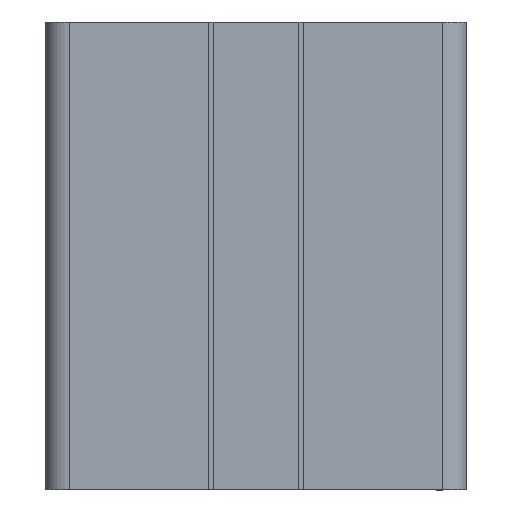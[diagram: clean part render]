
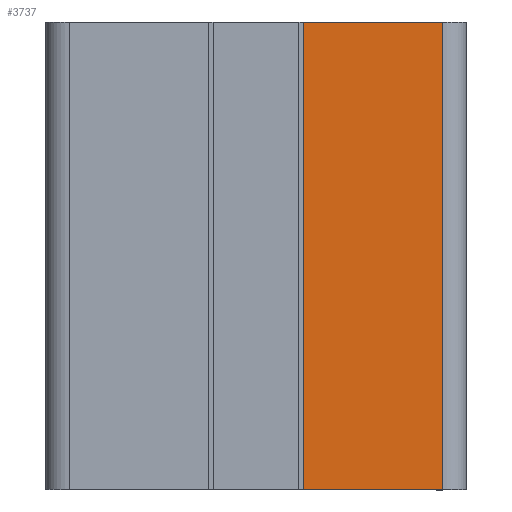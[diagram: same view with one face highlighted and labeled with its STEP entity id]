
A CAD part, top view. The second image highlights one B-rep face of the part: STEP entity #3737.
In plain terms, the highlighted planar face has unit normal (0, 0, 1).
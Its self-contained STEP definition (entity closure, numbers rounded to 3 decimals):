
#228 = DIRECTION ( 'NONE',  ( 0., -1., 0. ) ) ;
#515 = CARTESIAN_POINT ( 'NONE',  ( 514.108, 95.868, 29.568 ) ) ;
#519 = LINE ( 'NONE', #3455, #2419 ) ;
#540 = VERTEX_POINT ( 'NONE', #3131 ) ;
#660 = CARTESIAN_POINT ( 'NONE',  ( 534.108, 95.868, 29.568 ) ) ;
#844 = VECTOR ( 'NONE', #5405, 1000. ) ;
#1151 = VECTOR ( 'NONE', #1756, 1000. ) ;
#1517 = PLANE ( 'NONE',  #4840 ) ;
#1710 = EDGE_CURVE ( 'NONE', #2701, #4109, #4387, .T. ) ;
#1741 = DIRECTION ( 'NONE',  ( 0., 1., 0. ) ) ;
#1744 = FACE_OUTER_BOUND ( 'NONE', #3221, .T. ) ;
#1756 = DIRECTION ( 'NONE',  ( 1., 0., 0. ) ) ;
#1953 = CARTESIAN_POINT ( 'NONE',  ( 519.208, 195.868, 29.568 ) ) ;
#1967 = VECTOR ( 'NONE', #3072, 1000. ) ;
#1981 = EDGE_CURVE ( 'NONE', #2971, #4109, #4524, .T. ) ;
#2079 = CARTESIAN_POINT ( 'NONE',  ( 519.208, 145.868, 29.568 ) ) ;
#2168 = ORIENTED_EDGE ( 'NONE', *, *, #2804, .T. ) ;
#2282 = CARTESIAN_POINT ( 'NONE',  ( 519.208, 95.868, 29.568 ) ) ;
#2419 = VECTOR ( 'NONE', #1741, 1000. ) ;
#2486 = LINE ( 'NONE', #2079, #1151 ) ;
#2701 = VERTEX_POINT ( 'NONE', #4677 ) ;
#2748 = EDGE_CURVE ( 'NONE', #2701, #540, #2486, .T. ) ;
#2804 = EDGE_CURVE ( 'NONE', #2971, #540, #519, .T. ) ;
#2890 = ORIENTED_EDGE ( 'NONE', *, *, #1981, .F. ) ;
#2971 = VERTEX_POINT ( 'NONE', #660 ) ;
#3072 = DIRECTION ( 'NONE',  ( -1., 0., 0. ) ) ;
#3131 = CARTESIAN_POINT ( 'NONE',  ( 534.108, 145.868, 29.568 ) ) ;
#3221 = EDGE_LOOP ( 'NONE', ( #2168, #4889, #4227, #2890 ) ) ;
#3455 = CARTESIAN_POINT ( 'NONE',  ( 534.108, 195.868, 29.568 ) ) ;
#3737 = ADVANCED_FACE ( 'NONE', ( #1744 ), #1517, .T. ) ;
#4109 = VERTEX_POINT ( 'NONE', #2282 ) ;
#4227 = ORIENTED_EDGE ( 'NONE', *, *, #1710, .T. ) ;
#4234 = CARTESIAN_POINT ( 'NONE',  ( 519.208, 195.868, 29.568 ) ) ;
#4387 = LINE ( 'NONE', #4234, #844 ) ;
#4524 = LINE ( 'NONE', #515, #1967 ) ;
#4677 = CARTESIAN_POINT ( 'NONE',  ( 519.208, 145.868, 29.568 ) ) ;
#4840 = AXIS2_PLACEMENT_3D ( 'NONE', #1953, #4958, #228 ) ;
#4889 = ORIENTED_EDGE ( 'NONE', *, *, #2748, .F. ) ;
#4958 = DIRECTION ( 'NONE',  ( 0., 0., 1. ) ) ;
#5405 = DIRECTION ( 'NONE',  ( 0., -1., 0. ) ) ;
